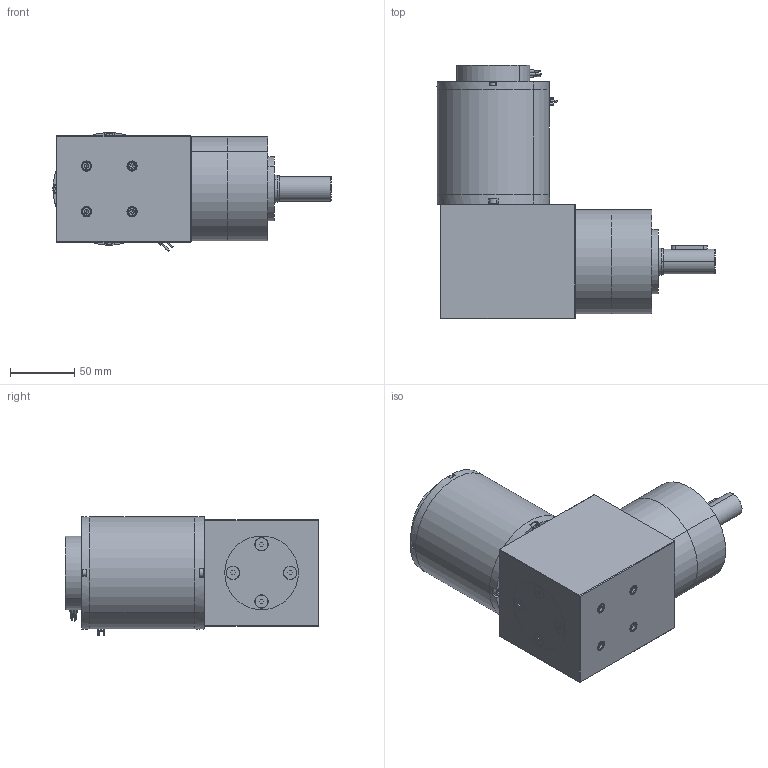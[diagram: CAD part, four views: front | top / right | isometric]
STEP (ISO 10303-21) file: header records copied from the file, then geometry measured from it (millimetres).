
FILE_DESCRIPTION (( 'STEP AP203' ), '1' );
FILE_NAME ('bl86425gra1.step', '2018-12-07T19:08:44', ( '' ), ( '' ), 'SwSTEP 2.0', 'SolidWorks 2017', '' );
FILE_SCHEMA (( 'CONFIG_CONTROL_DESIGN' ));
Products named in the file (1): bl86425gra1
Bounding box: 215.73 x 196.85 x 92.26 mm (x, y, z)
Volume: 1697640 mm3; surface area: 203770.3 mm2
Topology: 35 solids, 35 shells, 1275 faces, 3186 edges, 2050 vertices
Faces by surface type: cylinder 742, plane 384, cone 125, torus 16, bspline 8
Entity records: 57118 total; most frequent: CARTESIAN_POINT 29054, ORIENTED_EDGE 6332, DIRECTION 5391, EDGE_CURVE 3166, VERTEX_POINT 2050, AXIS2_PLACEMENT_3D 1965, LINE 1461, VECTOR 1461
